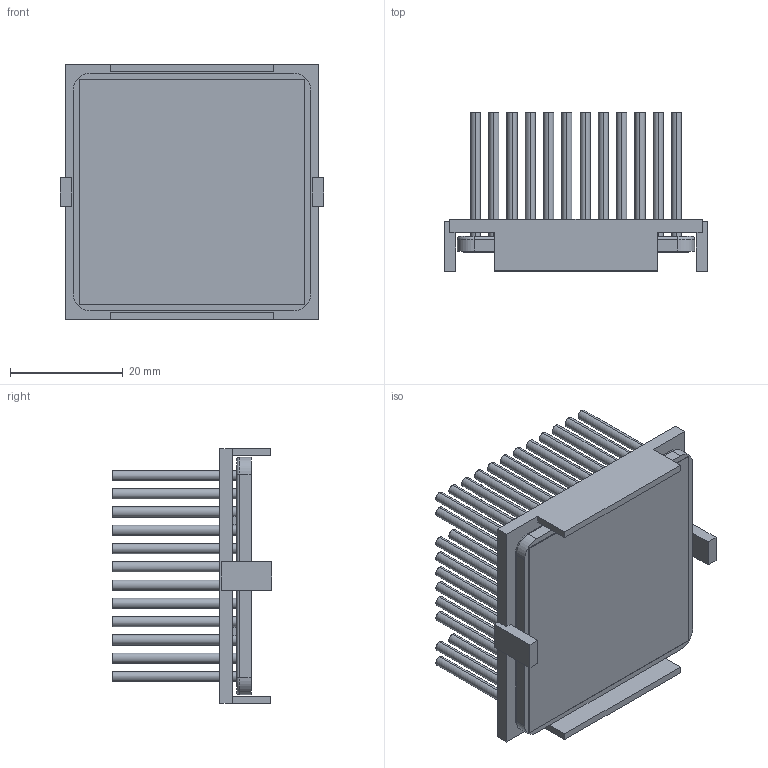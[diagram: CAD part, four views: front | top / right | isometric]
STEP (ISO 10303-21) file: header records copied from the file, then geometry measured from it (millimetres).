
FILE_DESCRIPTION (( 'STEP AP214' ), '1' );
FILE_NAME ('INM42.5002-25PCU-2.6Y.STEP', '2023-02-28T00:27:56', ( '' ), ( '' ), 'SwSTEP 2.0', 'SolidWorks 2020', '' );
FILE_SCHEMA (( 'AUTOMOTIVE_DESIGN' ));
Length unit declared in the file: inch
Products named in the file (1): INM42.5002-25PCU-2.6Y
Bounding box: 46.7 x 28.2 x 45.1 mm (x, y, z)
Volume: 14502.4 mm3; surface area: 27282.8 mm2
Topology: 3 solids, 3 shells, 486 faces, 1024 edges, 680 vertices
Faces by surface type: cylinder 280, plane 202, torus 4
Entity records: 19652 total; most frequent: DIRECTION 2562, CARTESIAN_POINT 2191, ORIENTED_EDGE 2048, AXIS2_PLACEMENT_3D 1051, EDGE_CURVE 1024, VERTEX_POINT 680, EDGE_LOOP 624, CIRCLE 564
